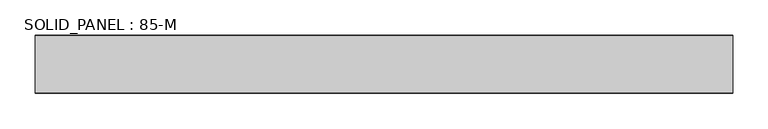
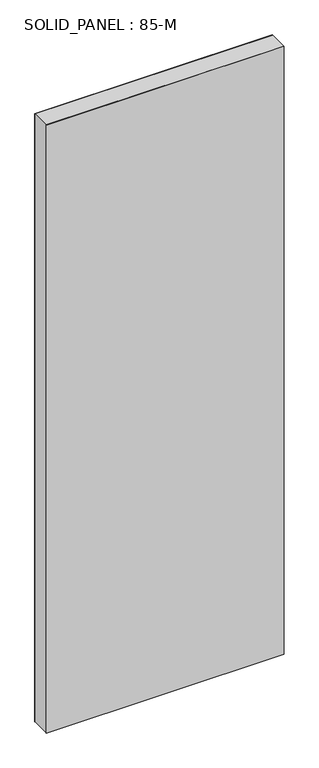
"""IFC4 building model written with IfcOpenShell, lengths in millimetres: plate geometry, SOLID_PANEL : 85-M."""

from ifc_helpers import new_model, si_unit, origin, origin_with_axes, place, context, project, spatial, polyline, outline, extrude, source, transform, mapped, element, save


def solid_panel_85_m_0b1a7936(model_context):
    return source(origin(), model_context, "Body", "SweptSolid", [
        extrude(outline(polyline([(497.0, 40.5), (497.0, -40.5), (-497.0, -40.5), (-497.0, 40.5), (497.0, 40.5)])), origin_with_axes(), (0.0, 0.0, 1.0), 2685.0),
        extrude(outline(polyline([(497.0, 41.5), (497.0, 40.5), (-497.0, 40.5), (-497.0, 41.5), (497.0, 41.5)])), origin_with_axes(), (0.0, 0.0, 1.0), 2685.0),
        extrude(outline(polyline([(497.0, -40.5), (497.0, -41.5), (-497.0, -41.5), (-497.0, -40.5), (497.0, -40.5)])), origin_with_axes(), (0.0, 0.0, 1.0), 2685.0),
    ])


if __name__ == "__main__":
    model = new_model("IFC4")
    model_context = context("Model", 3, world=origin())
    ifc_project = project(units=[si_unit("LENGTHUNIT", "METRE", prefix="MILLI")], contexts=[model_context])
    site = spatial("IfcSite", under=ifc_project)
    building = spatial("IfcBuilding", under=site)
    placement = place(None, origin())
    solid_panel_85_m_shape = solid_panel_85_m_0b1a7936(model_context)
    element("IfcPlate", 1, ObjectType="SOLID_PANEL : 85-M", at=placement, inside=building, context=model_context, shape_type="MappedRepresentation", body=[
        mapped(solid_panel_85_m_shape, transform((0.0, 0.0, 0.0), x_axis=(1.0, 0.0, 0.0), y_axis=(0.0, 1.0, 0.0), z_axis=(0.0, 0.0, 1.0))),
    ])
    save(model, "model.ifc")
